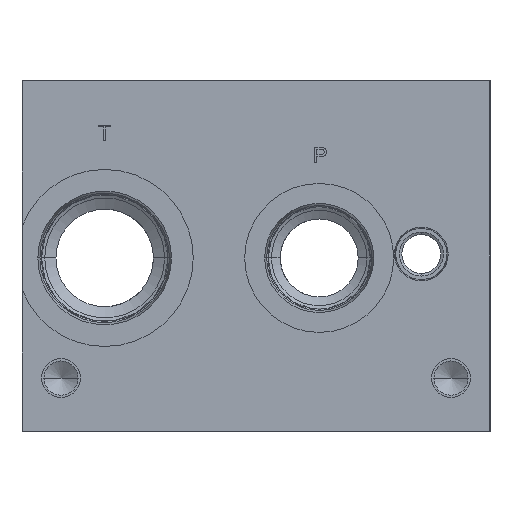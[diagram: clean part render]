
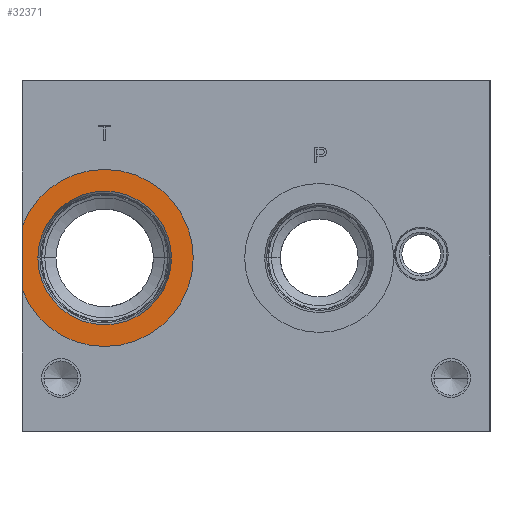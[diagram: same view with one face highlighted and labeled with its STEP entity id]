
A CAD part, left-side view. The second image highlights one B-rep face of the part: STEP entity #32371.
In plain terms, the highlighted planar face has unit normal (-1, 0, 0).
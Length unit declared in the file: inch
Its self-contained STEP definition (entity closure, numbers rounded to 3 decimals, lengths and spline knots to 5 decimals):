
#842 = EDGE_LOOP ( 'NONE', ( #14215, #25820 ) ) ;
#5130 = DIRECTION ( 'NONE',  ( 0., 1., 0. ) ) ;
#5922 = DIRECTION ( 'NONE',  ( 0., 1., 0. ) ) ;
#6960 = CARTESIAN_POINT ( 'NONE',  ( 0.031, -1.9165, -2.275 ) ) ;
#7613 = AXIS2_PLACEMENT_3D ( 'NONE', #10882, #34086, #31389 ) ;
#7894 = CARTESIAN_POINT ( 'NONE',  ( 0.031, 0., -2.68074 ) ) ;
#8051 = CARTESIAN_POINT ( 'NONE',  ( 0.031, -0.2035, -2.275 ) ) ;
#8491 = VERTEX_POINT ( 'NONE', #29913 ) ;
#9376 = AXIS2_PLACEMENT_3D ( 'NONE', #13881, #25582, #5130 ) ;
#10360 = VERTEX_POINT ( 'NONE', #6960 ) ;
#10882 = CARTESIAN_POINT ( 'NONE',  ( 0.031, -1.06, -2.275 ) ) ;
#11014 = CIRCLE ( 'NONE', #32299, 0.8565 ) ;
#13251 = AXIS2_PLACEMENT_3D ( 'NONE', #25731, #31627, #31754 ) ;
#13657 = ORIENTED_EDGE ( 'NONE', *, *, #26290, .F. ) ;
#13881 = CARTESIAN_POINT ( 'NONE',  ( 0.031, 0.075, -2.275 ) ) ;
#14215 = ORIENTED_EDGE ( 'NONE', *, *, #20199, .T. ) ;
#14831 = DIRECTION ( 'NONE',  ( 1., 0., 0. ) ) ;
#17958 = FACE_BOUND ( 'NONE', #842, .T. ) ;
#18401 = FACE_OUTER_BOUND ( 'NONE', #24498, .T. ) ;
#18720 = CIRCLE ( 'NONE', #7613, 0.8565 ) ;
#18973 = LINE ( 'NONE', #21280, #25850 ) ;
#19708 = PLANE ( 'NONE',  #9376 ) ;
#20199 = EDGE_CURVE ( 'NONE', #10360, #26297, #11014, .T. ) ;
#21280 = CARTESIAN_POINT ( 'NONE',  ( 0.031, 0., -4.5 ) ) ;
#21449 = VERTEX_POINT ( 'NONE', #7894 ) ;
#24498 = EDGE_LOOP ( 'NONE', ( #26854, #13657 ) ) ;
#25582 = DIRECTION ( 'NONE',  ( 1., 0., 0. ) ) ;
#25731 = CARTESIAN_POINT ( 'NONE',  ( 0.031, -1.06, -2.275 ) ) ;
#25820 = ORIENTED_EDGE ( 'NONE', *, *, #31726, .T. ) ;
#25850 = VECTOR ( 'NONE', #27156, 39.37008 ) ;
#26290 = EDGE_CURVE ( 'NONE', #8491, #21449, #34380, .T. ) ;
#26297 = VERTEX_POINT ( 'NONE', #8051 ) ;
#26854 = ORIENTED_EDGE ( 'NONE', *, *, #37606, .T. ) ;
#27156 = DIRECTION ( 'NONE',  ( 0., 0., -1. ) ) ;
#29913 = CARTESIAN_POINT ( 'NONE',  ( 0.031, 0., -1.86926 ) ) ;
#31389 = DIRECTION ( 'NONE',  ( 0., 1., 0. ) ) ;
#31627 = DIRECTION ( 'NONE',  ( 1., 0., 0. ) ) ;
#31726 = EDGE_CURVE ( 'NONE', #26297, #10360, #18720, .T. ) ;
#31754 = DIRECTION ( 'NONE',  ( 0., 1., 0. ) ) ;
#32299 = AXIS2_PLACEMENT_3D ( 'NONE', #35229, #14831, #5922 ) ;
#32371 = ADVANCED_FACE ( 'NONE', ( #18401, #17958 ), #19708, .F. ) ;
#34086 = DIRECTION ( 'NONE',  ( 1., 0., 0. ) ) ;
#34380 = CIRCLE ( 'NONE', #13251, 1.135 ) ;
#35229 = CARTESIAN_POINT ( 'NONE',  ( 0.031, -1.06, -2.275 ) ) ;
#37606 = EDGE_CURVE ( 'NONE', #8491, #21449, #18973, .T. ) ;
